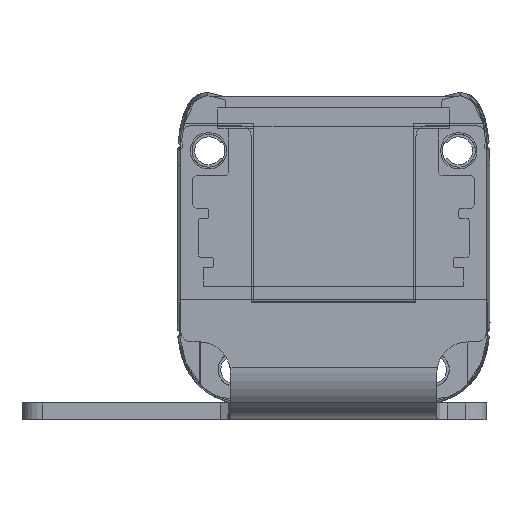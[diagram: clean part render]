
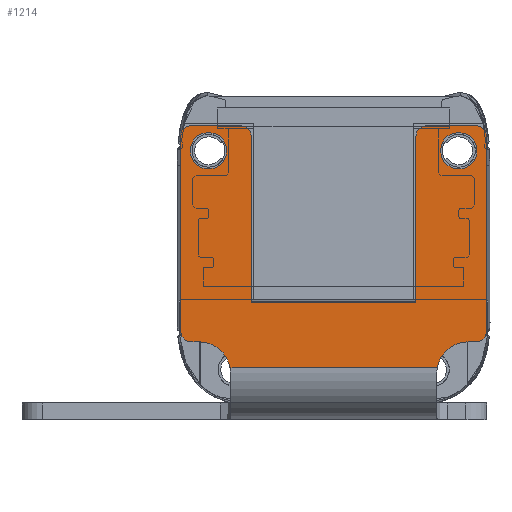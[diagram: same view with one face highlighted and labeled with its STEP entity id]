
A CAD part, front view. The second image highlights one B-rep face of the part: STEP entity #1214.
In plain terms, the highlighted planar face has unit normal (0, -1, 0).
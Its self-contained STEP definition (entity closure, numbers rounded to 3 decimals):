
#1214=ADVANCED_FACE('',(#1904,#1905,#1906),#1492,.T.);
#1492=PLANE('',#9447);
#1797=CIRCLE('',#9437,3.);
#1798=CIRCLE('',#9438,1.);
#1799=CIRCLE('',#9439,1.);
#1800=CIRCLE('',#9440,1.);
#1801=CIRCLE('',#9441,1.);
#1802=CIRCLE('',#9442,1.);
#1803=CIRCLE('',#9443,1.);
#1804=CIRCLE('',#9444,3.);
#1805=CIRCLE('',#9445,1.75);
#1806=CIRCLE('',#9446,1.75);
#1904=FACE_BOUND('',#2370,.T.);
#1905=FACE_BOUND('',#2371,.T.);
#1906=FACE_BOUND('',#2372,.T.);
#2370=EDGE_LOOP('',(#4747,#4748,#4749,#4750,#4751,#4752,#4753,#4754,#4755,
#4756,#4757,#4758,#4759,#4760,#4761,#4762,#4763,#4764));
#2371=EDGE_LOOP('',(#4765));
#2372=EDGE_LOOP('',(#4766));
#4747=ORIENTED_EDGE('',*,*,#6984,.T.);
#4748=ORIENTED_EDGE('',*,*,#6985,.F.);
#4749=ORIENTED_EDGE('',*,*,#6986,.T.);
#4750=ORIENTED_EDGE('',*,*,#6987,.T.);
#4751=ORIENTED_EDGE('',*,*,#6988,.T.);
#4752=ORIENTED_EDGE('',*,*,#6989,.T.);
#4753=ORIENTED_EDGE('',*,*,#6990,.T.);
#4754=ORIENTED_EDGE('',*,*,#6991,.F.);
#4755=ORIENTED_EDGE('',*,*,#6992,.F.);
#4756=ORIENTED_EDGE('',*,*,#6993,.T.);
#4757=ORIENTED_EDGE('',*,*,#6994,.T.);
#4758=ORIENTED_EDGE('',*,*,#6995,.F.);
#4759=ORIENTED_EDGE('',*,*,#6996,.T.);
#4760=ORIENTED_EDGE('',*,*,#6997,.F.);
#4761=ORIENTED_EDGE('',*,*,#6998,.T.);
#4762=ORIENTED_EDGE('',*,*,#6999,.T.);
#4763=ORIENTED_EDGE('',*,*,#7000,.T.);
#4764=ORIENTED_EDGE('',*,*,#7001,.T.);
#4765=ORIENTED_EDGE('',*,*,#7002,.F.);
#4766=ORIENTED_EDGE('',*,*,#7003,.T.);
#5758=VERTEX_POINT('',#15420);
#5759=VERTEX_POINT('',#15421);
#5760=VERTEX_POINT('',#15423);
#5761=VERTEX_POINT('',#15425);
#5762=VERTEX_POINT('',#15427);
#5763=VERTEX_POINT('',#15429);
#5764=VERTEX_POINT('',#15431);
#5765=VERTEX_POINT('',#15433);
#5766=VERTEX_POINT('',#15435);
#5767=VERTEX_POINT('',#15437);
#5768=VERTEX_POINT('',#15439);
#5769=VERTEX_POINT('',#15441);
#5770=VERTEX_POINT('',#15443);
#5771=VERTEX_POINT('',#15445);
#5772=VERTEX_POINT('',#15447);
#5773=VERTEX_POINT('',#15449);
#5774=VERTEX_POINT('',#15451);
#5775=VERTEX_POINT('',#15453);
#5776=VERTEX_POINT('',#15456);
#5777=VERTEX_POINT('',#15458);
#6984=EDGE_CURVE('',#5758,#5759,#1797,.T.);
#6985=EDGE_CURVE('',#5760,#5759,#7863,.T.);
#6986=EDGE_CURVE('',#5760,#5761,#1798,.T.);
#6987=EDGE_CURVE('',#5761,#5762,#7864,.T.);
#6988=EDGE_CURVE('',#5762,#5763,#1799,.T.);
#6989=EDGE_CURVE('',#5763,#5764,#7865,.T.);
#6990=EDGE_CURVE('',#5764,#5765,#1800,.T.);
#6991=EDGE_CURVE('',#5766,#5765,#7866,.T.);
#6992=EDGE_CURVE('',#5767,#5766,#7867,.T.);
#6993=EDGE_CURVE('',#5767,#5768,#7868,.T.);
#6994=EDGE_CURVE('',#5768,#5769,#1801,.T.);
#6995=EDGE_CURVE('',#5770,#5769,#7869,.T.);
#6996=EDGE_CURVE('',#5770,#5771,#1802,.T.);
#6997=EDGE_CURVE('',#5772,#5771,#7870,.T.);
#6998=EDGE_CURVE('',#5772,#5773,#1803,.T.);
#6999=EDGE_CURVE('',#5773,#5774,#7871,.T.);
#7000=EDGE_CURVE('',#5774,#5775,#1804,.T.);
#7001=EDGE_CURVE('',#5775,#5758,#7872,.T.);
#7002=EDGE_CURVE('',#5776,#5776,#1805,.T.);
#7003=EDGE_CURVE('',#5777,#5777,#1806,.T.);
#7863=LINE('',#15422,#8719);
#7864=LINE('',#15426,#8720);
#7865=LINE('',#15430,#8721);
#7866=LINE('',#15434,#8722);
#7867=LINE('',#15436,#8723);
#7868=LINE('',#15438,#8724);
#7869=LINE('',#15442,#8725);
#7870=LINE('',#15446,#8726);
#7871=LINE('',#15450,#8727);
#7872=LINE('',#15454,#8728);
#8719=VECTOR('',#11638,1.);
#8720=VECTOR('',#11641,1.);
#8721=VECTOR('',#11644,1.);
#8722=VECTOR('',#11647,1.);
#8723=VECTOR('',#11648,1.);
#8724=VECTOR('',#11649,1.);
#8725=VECTOR('',#11652,1.);
#8726=VECTOR('',#11655,1.);
#8727=VECTOR('',#11658,1.);
#8728=VECTOR('',#11661,1.);
#9437=AXIS2_PLACEMENT_3D('',#15419,#11636,#11637);
#9438=AXIS2_PLACEMENT_3D('',#15424,#11639,#11640);
#9439=AXIS2_PLACEMENT_3D('',#15428,#11642,#11643);
#9440=AXIS2_PLACEMENT_3D('',#15432,#11645,#11646);
#9441=AXIS2_PLACEMENT_3D('',#15440,#11650,#11651);
#9442=AXIS2_PLACEMENT_3D('',#15444,#11653,#11654);
#9443=AXIS2_PLACEMENT_3D('',#15448,#11656,#11657);
#9444=AXIS2_PLACEMENT_3D('',#15452,#11659,#11660);
#9445=AXIS2_PLACEMENT_3D('',#15455,#11662,#11663);
#9446=AXIS2_PLACEMENT_3D('',#15457,#11664,#11665);
#9447=AXIS2_PLACEMENT_3D('',#15459,#11666,#11667);
#11636=DIRECTION('',(0.,1.,0.));
#11637=DIRECTION('',(0.,0.,1.));
#11638=DIRECTION('',(-1.,0.,0.));
#11639=DIRECTION('',(0.,-1.,0.));
#11640=DIRECTION('',(0.,0.,1.));
#11641=DIRECTION('',(0.,0.,1.));
#11642=DIRECTION('',(0.,-1.,0.));
#11643=DIRECTION('',(0.,0.,-1.));
#11644=DIRECTION('',(-1.,0.,0.));
#11645=DIRECTION('',(0.,-1.,0.));
#11646=DIRECTION('',(0.,0.,-1.));
#11647=DIRECTION('',(0.,0.,1.));
#11648=DIRECTION('',(1.,0.,0.));
#11649=DIRECTION('',(0.,0.,1.));
#11650=DIRECTION('',(0.,-1.,0.));
#11651=DIRECTION('',(0.,0.,1.));
#11652=DIRECTION('',(1.,0.,0.));
#11653=DIRECTION('',(0.,-1.,0.));
#11654=DIRECTION('',(0.,0.,1.));
#11655=DIRECTION('',(0.,0.,1.));
#11656=DIRECTION('',(0.,-1.,0.));
#11657=DIRECTION('',(0.,0.,1.));
#11658=DIRECTION('',(1.,0.,0.));
#11659=DIRECTION('',(0.,1.,0.));
#11660=DIRECTION('',(0.,0.,1.));
#11661=DIRECTION('',(1.,0.,0.));
#11662=DIRECTION('',(0.,-1.,0.));
#11663=DIRECTION('',(0.,0.,1.));
#11664=DIRECTION('',(0.,1.,0.));
#11665=DIRECTION('',(0.,0.,-1.));
#11666=DIRECTION('',(0.,-1.,0.));
#11667=DIRECTION('',(-1.,0.,0.));
#15419=CARTESIAN_POINT('',(12.89,-154.2,-139.533));
#15420=CARTESIAN_POINT('',(9.939,-154.2,-138.994));
#15421=CARTESIAN_POINT('',(12.89,-154.2,-136.533));
#15422=CARTESIAN_POINT('',(-7.89,-154.2,-136.533));
#15423=CARTESIAN_POINT('',(13.69,-154.2,-136.533));
#15424=CARTESIAN_POINT('',(13.69,-154.2,-135.533));
#15425=CARTESIAN_POINT('',(14.69,-154.2,-135.533));
#15426=CARTESIAN_POINT('',(14.69,-154.2,-115.6));
#15427=CARTESIAN_POINT('',(14.69,-154.2,-116.8));
#15428=CARTESIAN_POINT('',(13.69,-154.2,-116.8));
#15429=CARTESIAN_POINT('',(13.69,-154.2,-115.8));
#15430=CARTESIAN_POINT('',(7.89,-154.2,-115.8));
#15431=CARTESIAN_POINT('',(8.89,-154.2,-115.8));
#15432=CARTESIAN_POINT('',(8.89,-154.2,-116.8));
#15433=CARTESIAN_POINT('',(7.89,-154.2,-116.8));
#15434=CARTESIAN_POINT('',(7.89,-154.2,-115.6));
#15435=CARTESIAN_POINT('',(7.89,-154.2,-132.733));
#15436=CARTESIAN_POINT('',(-9.89,-154.2,-132.733));
#15437=CARTESIAN_POINT('',(-7.89,-154.2,-132.733));
#15438=CARTESIAN_POINT('',(-7.89,-154.2,-115.6));
#15439=CARTESIAN_POINT('',(-7.89,-154.2,-116.8));
#15440=CARTESIAN_POINT('',(-8.89,-154.2,-116.8));
#15441=CARTESIAN_POINT('',(-8.89,-154.2,-115.8));
#15442=CARTESIAN_POINT('',(-7.89,-154.2,-115.8));
#15443=CARTESIAN_POINT('',(-13.69,-154.2,-115.8));
#15444=CARTESIAN_POINT('',(-13.69,-154.2,-116.8));
#15445=CARTESIAN_POINT('',(-14.69,-154.2,-116.8));
#15446=CARTESIAN_POINT('',(-14.69,-154.2,-115.6));
#15447=CARTESIAN_POINT('',(-14.69,-154.2,-135.533));
#15448=CARTESIAN_POINT('',(-13.69,-154.2,-135.533));
#15449=CARTESIAN_POINT('',(-13.69,-154.2,-136.533));
#15450=CARTESIAN_POINT('',(-7.89,-154.2,-136.533));
#15451=CARTESIAN_POINT('',(-12.89,-154.2,-136.533));
#15452=CARTESIAN_POINT('',(-12.89,-154.2,-139.533));
#15453=CARTESIAN_POINT('',(-9.939,-154.2,-138.994));
#15454=CARTESIAN_POINT('',(-9.89,-154.2,-138.994));
#15455=CARTESIAN_POINT('',(-12.,-154.2,-118.2));
#15456=CARTESIAN_POINT('',(-12.,-154.2,-116.45));
#15457=CARTESIAN_POINT('',(12.,-154.2,-118.2));
#15458=CARTESIAN_POINT('',(12.,-154.2,-119.95));
#15459=CARTESIAN_POINT('',(-9.89,-154.2,-142.394));
